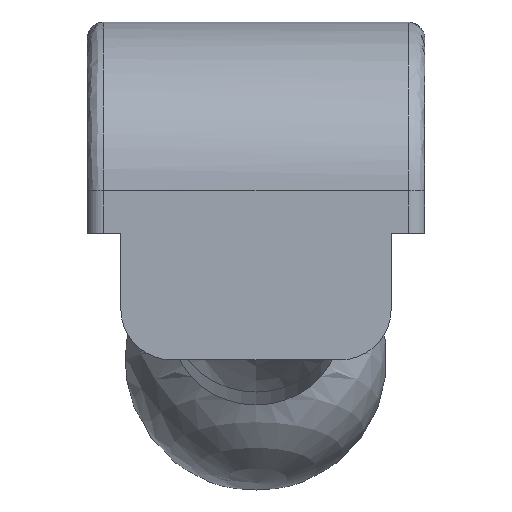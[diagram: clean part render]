
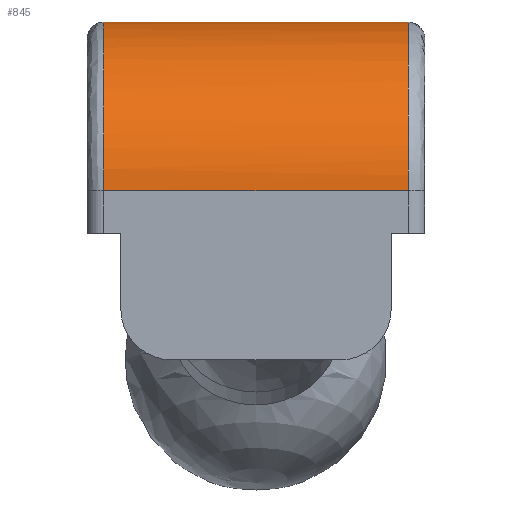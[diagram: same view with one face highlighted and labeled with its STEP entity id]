
A CAD part, front view. The second image highlights one B-rep face of the part: STEP entity #845.
In plain terms, the highlighted free-form (B-spline) face has degree [1, 2] with [2, 3] control points.
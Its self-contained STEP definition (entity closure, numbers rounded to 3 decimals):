
#21=(
BOUNDED_SURFACE()
B_SPLINE_SURFACE(1,2,((#2065,#2066,#2067),(#2068,#2069,#2070)),
 .UNSPECIFIED.,.F.,.F.,.F.)
B_SPLINE_SURFACE_WITH_KNOTS((2,2),(3,3),(0.08,1.52),(0.,
1.569),.UNSPECIFIED.)
GEOMETRIC_REPRESENTATION_ITEM()
RATIONAL_B_SPLINE_SURFACE(((1.,0.708,1.),(1.,0.708,
1.)))
REPRESENTATION_ITEM('')
SURFACE()
);
#24=B_SPLINE_CURVE_WITH_KNOTS('',3,(#1972,#1973,#1974,#1975,#1976,#1977,
#1978),.UNSPECIFIED.,.F.,.F.,(4,1,1,1,4),(1.35,2.041,
2.502,2.733,2.963),.UNSPECIFIED.);
#28=B_SPLINE_CURVE_WITH_KNOTS('',3,(#2054,#2055,#2056,#2057,#2058,#2059,
#2060,#2061),.UNSPECIFIED.,.F.,.F.,(4,1,1,1,1,4),(0.,
0.23,0.461,0.691,1.152,
1.613),.UNSPECIFIED.);
#81=FACE_OUTER_BOUND('',#127,.T.);
#127=EDGE_LOOP('',(#694,#695,#696,#697));
#168=LINE('',#1243,#255);
#211=LINE('',#2071,#298);
#255=VECTOR('',#1000,10.);
#298=VECTOR('',#1103,10.);
#370=VERTEX_POINT('',#1240);
#371=VERTEX_POINT('',#1242);
#412=VERTEX_POINT('',#1964);
#415=VERTEX_POINT('',#2037);
#458=EDGE_CURVE('',#371,#370,#168,.T.);
#510=EDGE_CURVE('',#412,#370,#24,.T.);
#520=EDGE_CURVE('',#371,#415,#28,.T.);
#523=EDGE_CURVE('',#415,#412,#211,.T.);
#694=ORIENTED_EDGE('',*,*,#520,.F.);
#695=ORIENTED_EDGE('',*,*,#458,.T.);
#696=ORIENTED_EDGE('',*,*,#510,.F.);
#697=ORIENTED_EDGE('',*,*,#523,.F.);
#845=ADVANCED_FACE('',(#81),#21,.F.);
#1000=DIRECTION('',(1.,0.,0.));
#1103=DIRECTION('',(1.,0.,0.));
#1240=CARTESIAN_POINT('',(9.,-6.25,2.5));
#1242=CARTESIAN_POINT('',(-9.,-6.25,2.5));
#1243=CARTESIAN_POINT('',(10.,-6.25,2.5));
#1964=CARTESIAN_POINT('',(9.,6.225,12.5));
#1972=CARTESIAN_POINT('Ctrl Pts',(9.,6.225,12.5));
#1973=CARTESIAN_POINT('Ctrl Pts',(9.,3.763,12.496));
#1974=CARTESIAN_POINT('Ctrl Pts',(9.,-0.359,11.546));
#1975=CARTESIAN_POINT('Ctrl Pts',(9.,-4.338,8.24));
#1976=CARTESIAN_POINT('Ctrl Pts',(9.,-5.955,5.13));
#1977=CARTESIAN_POINT('Ctrl Pts',(9.,-6.25,3.378));
#1978=CARTESIAN_POINT('Ctrl Pts',(9.,-6.25,2.5));
#2037=CARTESIAN_POINT('',(-9.,6.225,12.5));
#2054=CARTESIAN_POINT('Ctrl Pts',(-9.,-6.25,2.5));
#2055=CARTESIAN_POINT('Ctrl Pts',(-9.,-6.25,3.378));
#2056=CARTESIAN_POINT('Ctrl Pts',(-9.,-5.953,5.132));
#2057=CARTESIAN_POINT('Ctrl Pts',(-9.,-4.746,7.459));
#2058=CARTESIAN_POINT('Ctrl Pts',(-9.,-2.423,9.975));
#2059=CARTESIAN_POINT('Ctrl Pts',(-9.,1.303,11.981));
#2060=CARTESIAN_POINT('Ctrl Pts',(-9.,4.584,12.497));
#2061=CARTESIAN_POINT('Ctrl Pts',(-9.,6.225,12.5));
#2065=CARTESIAN_POINT('Ctrl Pts',(9.,-6.25,2.5));
#2066=CARTESIAN_POINT('Ctrl Pts',(9.,-6.25,12.48));
#2067=CARTESIAN_POINT('Ctrl Pts',(9.,6.225,12.5));
#2068=CARTESIAN_POINT('Ctrl Pts',(-9.,-6.25,2.5));
#2069=CARTESIAN_POINT('Ctrl Pts',(-9.,-6.25,12.48));
#2070=CARTESIAN_POINT('Ctrl Pts',(-9.,6.225,12.5));
#2071=CARTESIAN_POINT('',(10.,6.225,12.5));
